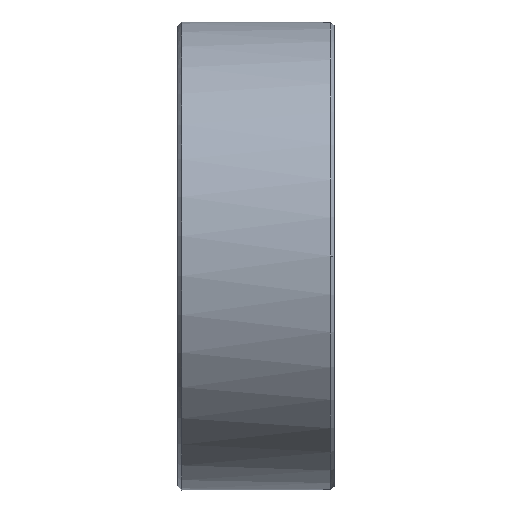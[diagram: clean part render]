
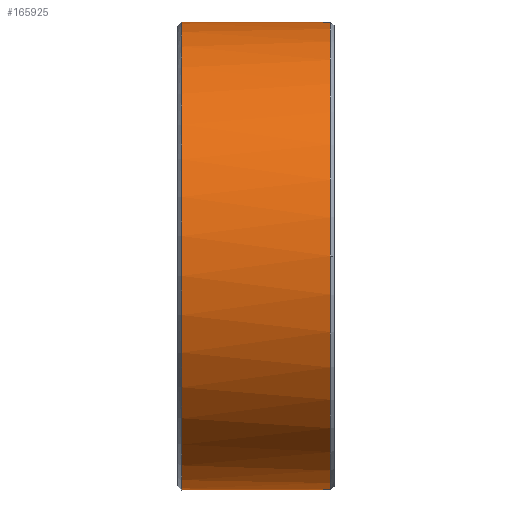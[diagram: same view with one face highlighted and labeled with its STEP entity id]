
A CAD part, left-side view. The second image highlights one B-rep face of the part: STEP entity #165925.
In plain terms, the highlighted cylindrical face has radius 38.1 mm (diameter 76.2 mm), a partial arc.
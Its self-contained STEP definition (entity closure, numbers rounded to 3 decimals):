
#23846 = ORIENTED_EDGE ( 'NONE', *, *, #34477, .T. ) ;
#23849 = ORIENTED_EDGE ( 'NONE', *, *, #34479, .T. ) ;
#23852 = ORIENTED_EDGE ( 'NONE', *, *, #193016, .T. ) ;
#23854 = ORIENTED_EDGE ( 'NONE', *, *, #34481, .T. ) ;
#23856 = ORIENTED_EDGE ( 'NONE', *, *, #34483, .T. ) ;
#24614 = CARTESIAN_POINT ( 'NONE',  ( 0., 24.8, 0. ) ) ;
#24616 = DIRECTION ( 'NONE',  ( 0., -1., 0. ) ) ;
#24617 = DIRECTION ( 'NONE',  ( 0., 0., -1. ) ) ;
#24622 = LINE ( 'NONE', #24627, #36357 ) ;
#24627 = CARTESIAN_POINT ( 'NONE',  ( -12.474, 0., -36. ) ) ;
#24630 = DIRECTION ( 'NONE',  ( 0., -1., 0. ) ) ;
#24645 = CARTESIAN_POINT ( 'NONE',  ( 0., 0.6, 0. ) ) ;
#24647 = DIRECTION ( 'NONE',  ( 0., 1., 0. ) ) ;
#24650 = DIRECTION ( 'NONE',  ( 0., 0., 1. ) ) ;
#24657 = LINE ( 'NONE', #24660, #36366 ) ;
#24660 = CARTESIAN_POINT ( 'NONE',  ( 12.474, 0., -36. ) ) ;
#24662 = DIRECTION ( 'NONE',  ( 0., 1., 0. ) ) ;
#34477 = EDGE_CURVE ( 'NONE', #152531, #152366, #36351, .T. ) ;
#34479 = EDGE_CURVE ( 'NONE', #152366, #152399, #24622, .T. ) ;
#34481 = EDGE_CURVE ( 'NONE', #152401, #152530, #36359, .T. ) ;
#34483 = EDGE_CURVE ( 'NONE', #152530, #152531, #24657, .T. ) ;
#36351 = CIRCLE ( 'NONE', #36356, 38.1 ) ;
#36356 = AXIS2_PLACEMENT_3D ( 'NONE', #24614, #24616, #24617 ) ;
#36357 = VECTOR ( 'NONE', #24630, 1000. ) ;
#36359 = CIRCLE ( 'NONE', #36364, 38.1 ) ;
#36364 = AXIS2_PLACEMENT_3D ( 'NONE', #24645, #24647, #24650 ) ;
#36366 = VECTOR ( 'NONE', #24662, 1000. ) ;
#95156 = AXIS2_PLACEMENT_3D ( 'NONE', #98487, #98493, #98536 ) ;
#98487 = CARTESIAN_POINT ( 'NONE',  ( 0., 0., 0. ) ) ;
#98493 = DIRECTION ( 'NONE',  ( 0., -1., 0. ) ) ;
#98529 = CYLINDRICAL_SURFACE ( 'NONE', #95156, 38.1 ) ;
#98531 = FACE_OUTER_BOUND ( 'NONE', #196280, .T. ) ;
#98536 = DIRECTION ( 'NONE',  ( 0., 0., -1. ) ) ;
#115874 = CARTESIAN_POINT ( 'NONE',  ( -12.474, 24.8, -36. ) ) ;
#115911 = CARTESIAN_POINT ( 'NONE',  ( -12.474, 0.6, -36. ) ) ;
#115913 = CARTESIAN_POINT ( 'NONE',  ( 0., 0.6, 38.1 ) ) ;
#116053 = CARTESIAN_POINT ( 'NONE',  ( 12.474, 0.6, -36. ) ) ;
#116055 = CARTESIAN_POINT ( 'NONE',  ( 12.474, 24.8, -36. ) ) ;
#129410 = CIRCLE ( 'NONE', #129415, 38.1 ) ;
#129415 = AXIS2_PLACEMENT_3D ( 'NONE', #135523, #135526, #135529 ) ;
#135523 = CARTESIAN_POINT ( 'NONE',  ( 0., 0.6, 0. ) ) ;
#135526 = DIRECTION ( 'NONE',  ( 0., 1., 0. ) ) ;
#135529 = DIRECTION ( 'NONE',  ( 0., 0., 1. ) ) ;
#152366 = VERTEX_POINT ( 'NONE', #115874 ) ;
#152399 = VERTEX_POINT ( 'NONE', #115911 ) ;
#152401 = VERTEX_POINT ( 'NONE', #115913 ) ;
#152530 = VERTEX_POINT ( 'NONE', #116053 ) ;
#152531 = VERTEX_POINT ( 'NONE', #116055 ) ;
#165925 = ADVANCED_FACE ( 'NONE', ( #98531 ), #98529, .T. ) ;
#193016 = EDGE_CURVE ( 'NONE', #152399, #152401, #129410, .T. ) ;
#196280 = EDGE_LOOP ( 'NONE', ( #23846, #23849, #23852, #23854, #23856 ) ) ;
